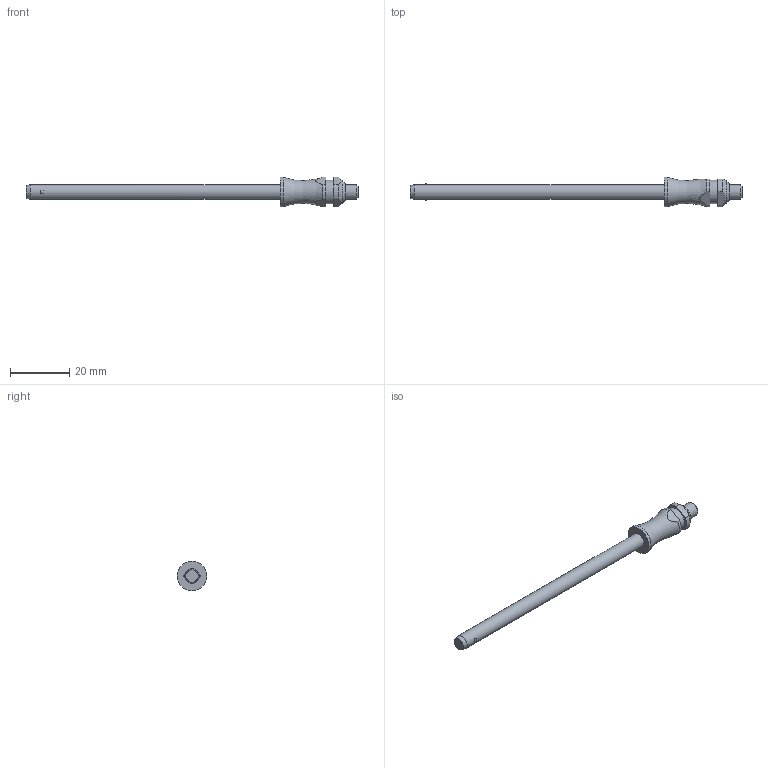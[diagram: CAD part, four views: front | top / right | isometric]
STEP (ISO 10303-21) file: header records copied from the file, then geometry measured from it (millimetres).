
FILE_DESCRIPTION( ( 'STEP AP203' ), '1' );
FILE_NAME( 'C:/Temp/Ganter_Step_05_03_2020/data/3_1/gn113_3/Stainless Steel-Ball lock pin GN 113.3-5-80 (deactivated).stp', '2020-03-12T08:18:14', ( 'License CC BY-ND 4.0' ), ( 'CADENAS' ), ' ', 'PARTsolutions', ' ' );
FILE_SCHEMA( ( 'CONFIG_CONTROL_DESIGN' ) );
Length unit declared in the file: millimetre
Products named in the file (1): _Stainless Steel-Ball lock pin GN 113.3-5-80 (deactivated)
Bounding box: 112.3 x 10 x 10 mm (x, y, z)
Volume: 3025.1 mm3; surface area: 2170.4 mm2
Topology: 1 solids, 1 shells, 29 faces, 61 edges, 40 vertices
Faces by surface type: plane 12, cylinder 10, cone 3, torus 2, sphere 2
Full cylindrical faces by diameter (mm): 5 x2, 7.9 x1, 10 x1
Entity records: 902 total; most frequent: CARTESIAN_POINT 272, DIRECTION 126, ORIENTED_EDGE 100, AXIS2_PLACEMENT_3D 54, EDGE_CURVE 50, EDGE_LOOP 44, VERTEX_POINT 38, FACE_OUTER_BOUND 35
